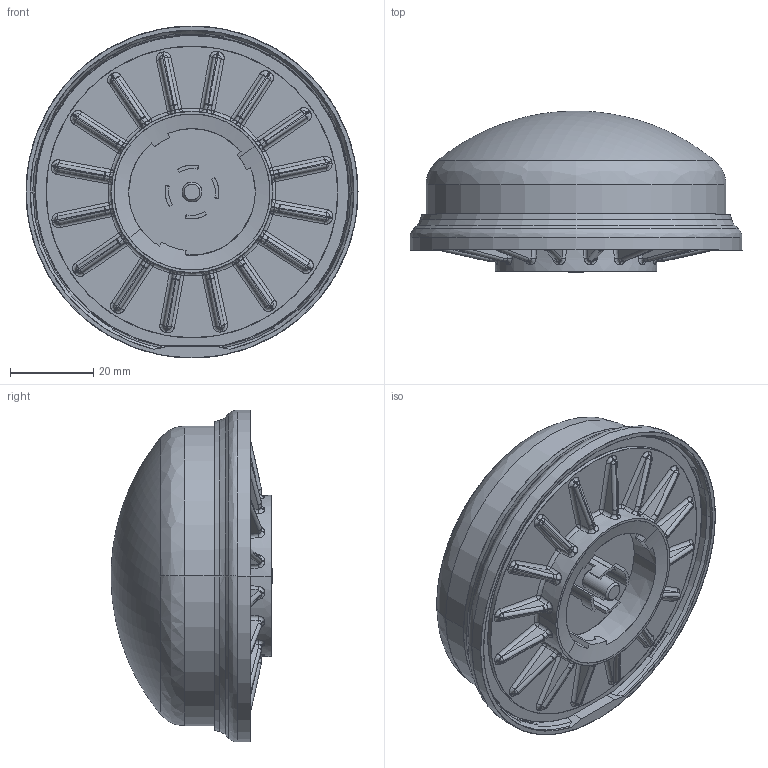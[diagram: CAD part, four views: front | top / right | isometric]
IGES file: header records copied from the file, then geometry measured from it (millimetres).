
Start section: SolidWorks IGES file using analytic representation for surfaces
Global section: file name: C:\Users\Public\HAOSENSOFTWARE\YFTSolidWorksArasPLM-V3.1.3-2023-beta\SaveAs_files\9C1-4551744-000-00.IGS; native system: SolidWorks 2023; preprocessor: SolidWorks 2023; author: P.SACHSENWEGER; date: 251017.111016; units: millimetre
Bounding box: 79.7 x 38.82 x 79.7 mm (x, y, z)
Surface area: 18878.7 mm2 (no closed solid volume)
Topology: 0 solids, 0 shells, 691 faces, 4815 edges, 4751 vertices
Faces by surface type: bspline 420, revolution 271
